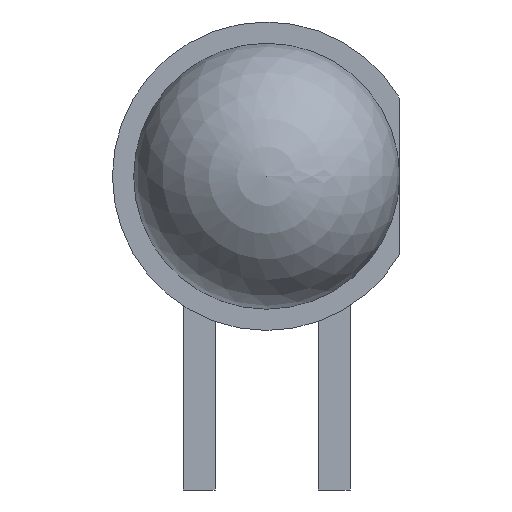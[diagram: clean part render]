
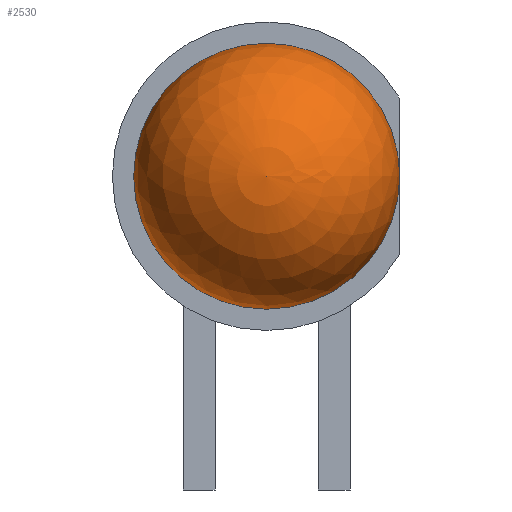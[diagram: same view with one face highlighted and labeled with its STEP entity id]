
A CAD part, front view. The second image highlights one B-rep face of the part: STEP entity #2530.
In plain terms, the highlighted spherical face has radius 2.5 mm.
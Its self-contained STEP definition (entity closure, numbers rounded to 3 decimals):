
#2464 = CYLINDRICAL_SURFACE('',#2465,2.5);
#2465 = AXIS2_PLACEMENT_3D('',#2466,#2467,#2468);
#2466 = CARTESIAN_POINT('',(0.,-8.5,2.925));
#2467 = DIRECTION('',(-0.,1.,0.));
#2468 = DIRECTION('',(1.,0.,0.));
#2479 = EDGE_CURVE('',#2480,#2480,#2482,.T.);
#2480 = VERTEX_POINT('',#2481);
#2481 = CARTESIAN_POINT('',(2.5,-13.7,2.925));
#2482 = SURFACE_CURVE('',#2483,(#2488,#2495),.PCURVE_S1.);
#2483 = CIRCLE('',#2484,2.5);
#2484 = AXIS2_PLACEMENT_3D('',#2485,#2486,#2487);
#2485 = CARTESIAN_POINT('',(0.,-13.7,2.925));
#2486 = DIRECTION('',(0.,-1.,0.));
#2487 = DIRECTION('',(1.,0.,0.));
#2488 = PCURVE('',#2464,#2489);
#2489 = DEFINITIONAL_REPRESENTATION('',(#2490),#2494);
#2490 = LINE('',#2491,#2492);
#2491 = CARTESIAN_POINT('',(-0.,-5.2));
#2492 = VECTOR('',#2493,1.);
#2493 = DIRECTION('',(-1.,0.));
#2494 = ( GEOMETRIC_REPRESENTATION_CONTEXT(2) 
PARAMETRIC_REPRESENTATION_CONTEXT() REPRESENTATION_CONTEXT('2D SPACE',''
  ) );
#2495 = PCURVE('',#2496,#2501);
#2496 = SPHERICAL_SURFACE('',#2497,2.5);
#2497 = AXIS2_PLACEMENT_3D('',#2498,#2499,#2500);
#2498 = CARTESIAN_POINT('',(0.,-13.7,2.925));
#2499 = DIRECTION('',(0.,-1.,0.));
#2500 = DIRECTION('',(1.,0.,0.));
#2501 = DEFINITIONAL_REPRESENTATION('',(#2502),#2506);
#2502 = LINE('',#2503,#2504);
#2503 = CARTESIAN_POINT('',(0.,0.));
#2504 = VECTOR('',#2505,1.);
#2505 = DIRECTION('',(1.,0.));
#2506 = ( GEOMETRIC_REPRESENTATION_CONTEXT(2) 
PARAMETRIC_REPRESENTATION_CONTEXT() REPRESENTATION_CONTEXT('2D SPACE',''
  ) );
#2530 = ADVANCED_FACE('',(#2531),#2496,.T.);
#2531 = FACE_BOUND('',#2532,.T.);
#2532 = EDGE_LOOP('',(#2533,#2555,#2556));
#2533 = ORIENTED_EDGE('',*,*,#2534,.F.);
#2534 = EDGE_CURVE('',#2480,#2535,#2537,.T.);
#2535 = VERTEX_POINT('',#2536);
#2536 = CARTESIAN_POINT('',(0.,-16.2,2.925));
#2537 = SEAM_CURVE('',#2538,(#2543,#2549),.PCURVE_S1.);
#2538 = CIRCLE('',#2539,2.5);
#2539 = AXIS2_PLACEMENT_3D('',#2540,#2541,#2542);
#2540 = CARTESIAN_POINT('',(0.,-13.7,2.925));
#2541 = DIRECTION('',(0.,0.,-1.));
#2542 = DIRECTION('',(1.,0.,0.));
#2543 = PCURVE('',#2496,#2544);
#2544 = DEFINITIONAL_REPRESENTATION('',(#2545),#2548);
#2545 = B_SPLINE_CURVE_WITH_KNOTS('',1,(#2546,#2547),.UNSPECIFIED.,.F.,
  .F.,(2,2),(0.,1.571),.PIECEWISE_BEZIER_KNOTS.);
#2546 = CARTESIAN_POINT('',(0.,0.));
#2547 = CARTESIAN_POINT('',(0.,1.571));
#2548 = ( GEOMETRIC_REPRESENTATION_CONTEXT(2) 
PARAMETRIC_REPRESENTATION_CONTEXT() REPRESENTATION_CONTEXT('2D SPACE',''
  ) );
#2549 = PCURVE('',#2496,#2550);
#2550 = DEFINITIONAL_REPRESENTATION('',(#2551),#2554);
#2551 = B_SPLINE_CURVE_WITH_KNOTS('',1,(#2552,#2553),.UNSPECIFIED.,.F.,
  .F.,(2,2),(0.,1.571),.PIECEWISE_BEZIER_KNOTS.);
#2552 = CARTESIAN_POINT('',(6.283,0.));
#2553 = CARTESIAN_POINT('',(6.283,1.571));
#2554 = ( GEOMETRIC_REPRESENTATION_CONTEXT(2) 
PARAMETRIC_REPRESENTATION_CONTEXT() REPRESENTATION_CONTEXT('2D SPACE',''
  ) );
#2555 = ORIENTED_EDGE('',*,*,#2479,.T.);
#2556 = ORIENTED_EDGE('',*,*,#2534,.T.);
